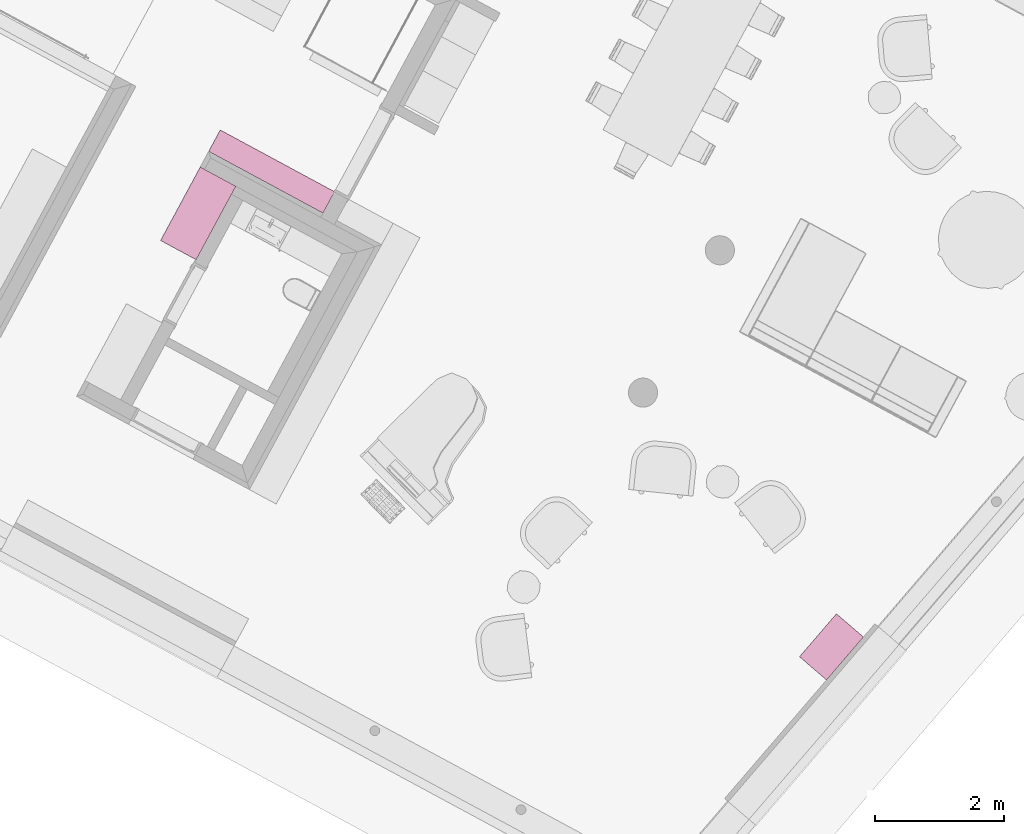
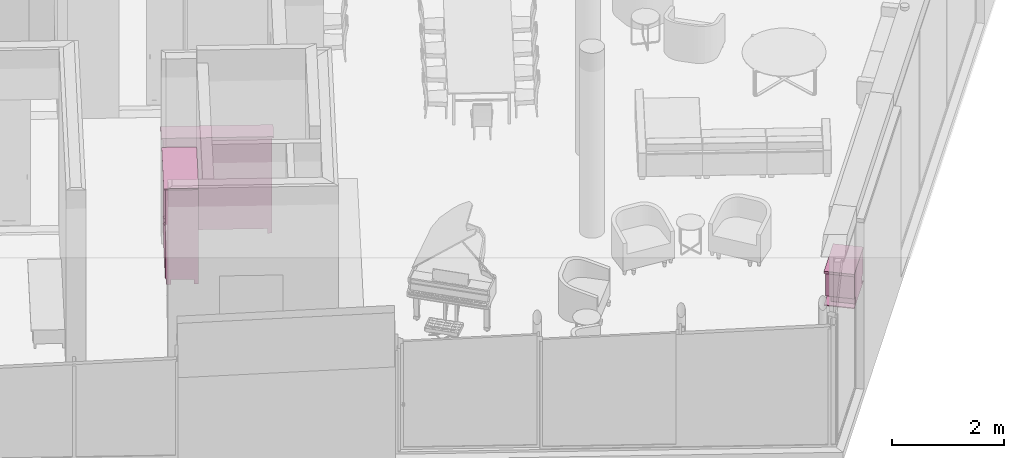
# One storey, part 30 of 36: 3 furnishings.
"""IFC2X3 building model written with IfcOpenShell, lengths in metres."""

from ifc_helpers import new_model, entity, si_unit, converted_unit, derived_unit, money_unit, direction, frame, origin_with_axes, place, context, subcontext, project, spatial, open_shell, faceted_brep, surface_model, type_object, element, save


model = new_model("IFC2X3")

# Units and contexts
model_context = context("Model", 3, precision=1e-05, world=origin_with_axes(), true_north=direction((0.0, 1.0)))
body_context = subcontext(model_context, "Body", "Model", "MODEL_VIEW")
ifc_project = project(units=[si_unit("LENGTHUNIT", "METRE"), si_unit("AREAUNIT", "SQUARE_METRE"), si_unit("VOLUMEUNIT", "CUBIC_METRE"), converted_unit("PLANEANGLEUNIT", "DEGREE", entity("IfcPlaneAngleMeasure", 0.0174532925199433), si_unit("PLANEANGLEUNIT", "RADIAN"), dimensions=[0, 0, 0, 0, 0, 0, 0]), money_unit("EUR"), converted_unit("TIMEUNIT", "Year", entity("IfcTimeMeasure", 31556926.0), si_unit("TIMEUNIT", "SECOND"), dimensions=[0, 0, 1, 0, 0, 0, 0]), si_unit("MASSUNIT", "GRAM", prefix="KILO"), si_unit("THERMODYNAMICTEMPERATUREUNIT", "DEGREE_CELSIUS"), si_unit("LUMINOUSINTENSITYUNIT", "LUMEN"), si_unit("ENERGYUNIT", "JOULE", prefix="MEGA"), derived_unit("THERMALCONDUCTANCEUNIT", [(si_unit("POWERUNIT", "WATT"), 1), (si_unit("LENGTHUNIT", "METRE"), -1), (si_unit("THERMODYNAMICTEMPERATUREUNIT", "KELVIN"), -1)]), derived_unit("SPECIFICHEATCAPACITYUNIT", [(si_unit("ENERGYUNIT", "JOULE"), 1), (si_unit("MASSUNIT", "GRAM", prefix="KILO"), -1), (si_unit("THERMODYNAMICTEMPERATUREUNIT", "KELVIN"), -1)]), derived_unit("MASSDENSITYUNIT", [(si_unit("MASSUNIT", "GRAM", prefix="KILO"), 1), (si_unit("VOLUMEUNIT", "CUBIC_METRE"), -1)])], contexts=[model_context])

# Site, building, storey
site_placement = place(None, frame((-3.949935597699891, 1.740105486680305, 0.0), z_axis=(0.0, 0.0, 1.0), x_axis=(0.8799804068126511, -0.475009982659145, 0.0)))
site = spatial("IfcSite", under=ifc_project, at=site_placement, Name="Gelände", CompositionType="ELEMENT")
building_placement = place(site_placement, origin_with_axes())
building = spatial("IfcBuilding", under=site, at=building_placement, Name="Gebäude", CompositionType="ELEMENT")
storey_placement = place(building_placement, origin_with_axes())
storey = spatial("IfcBuildingStorey", under=building, at=storey_placement, Name="Erdgeschoss", CompositionType="ELEMENT", Elevation=0.0)

# Furnishings
furniture_type_1 = type_object("IfcFurnitureType", Name="Kleiderschrank 22", AssemblyPlace="NOTDEFINED")
furnishing_1_placement = place(storey_placement, frame((15.16082818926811, 6.72805330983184, 0.0), z_axis=(0.0, 0.0, 1.0), x_axis=(0.0, -1.0, 0.0)))
element("IfcFurnishingElement", 1, at=furnishing_1_placement, inside=storey, type_object=furniture_type_1, Name="Objekt-0067", ObjectType="FURNITURE", context=body_context, shape_type="Brep", body=[
    faceted_brep([(0.05000000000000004, 0.6246501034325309, 0.12), (0.05000000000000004, 0.6046501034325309, 0.12), (0.05000000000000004, 0.6046501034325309, 2.05), (0.05000000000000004, 0.6246501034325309, 2.05), (1.24, 0.6246501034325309, 0.12), (1.24, 0.6046501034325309, 0.12), (1.24, 0.6046501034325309, 2.05), (1.24, 0.6246501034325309, 2.05)], [[[0, 1, 2, 3]], [[0, 4, 5, 1]], [[1, 5, 6, 2]], [[3, 2, 6, 7]], [[4, 0, 3, 7]], [[5, 4, 7, 6]]]),
    faceted_brep([(1.26, 0.05000000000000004, 0.1), (1.24, 0.05000000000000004, 0.1), (1.24, 0.6246501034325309, 0.1), (1.26, 0.6246501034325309, 0.1), (1.26, 0.05000000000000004, 2.07), (1.24, 0.05000000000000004, 2.07), (1.24, 0.6246501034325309, 2.07), (1.26, 0.6246501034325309, 2.07)], [[[0, 1, 2, 3]], [[1, 0, 4, 5]], [[2, 1, 5, 6]], [[3, 2, 6, 7]], [[0, 3, 7, 4]], [[5, 4, 7, 6]]]),
    faceted_brep([(0.05000000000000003, 0.05000000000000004, 0.1), (0.03000000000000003, 0.05000000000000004, 0.1), (0.03000000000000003, 0.6246501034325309, 0.1), (0.05000000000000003, 0.6246501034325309, 0.1), (0.05000000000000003, 0.05000000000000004, 2.07), (0.03000000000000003, 0.05000000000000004, 2.07), (0.03000000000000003, 0.6246501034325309, 2.07), (0.05000000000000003, 0.6246501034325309, 2.07)], [[[0, 1, 2, 3]], [[1, 0, 4, 5]], [[2, 1, 5, 6]], [[3, 2, 6, 7]], [[0, 3, 7, 4]], [[5, 4, 7, 6]]]),
    faceted_brep([(1.24, 0.05000000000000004, 0.1), (0.05000000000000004, 0.05000000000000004, 0.1), (0.05000000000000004, 0.6246501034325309, 0.1), (1.24, 0.6246501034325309, 0.1), (1.24, 0.05000000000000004, 0.12), (0.05000000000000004, 0.05000000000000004, 0.12), (0.05000000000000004, 0.6246501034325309, 0.12), (1.24, 0.6246501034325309, 0.12)], [[[0, 1, 2, 3]], [[1, 0, 4, 5]], [[2, 1, 5, 6]], [[3, 2, 6, 7]], [[0, 3, 7, 4]], [[5, 4, 7, 6]]]),
    faceted_brep([(1.24, 0.05000000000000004, 2.05), (0.05000000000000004, 0.05000000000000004, 2.05), (0.05000000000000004, 0.6246501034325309, 2.05), (1.24, 0.6246501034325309, 2.05), (1.24, 0.05000000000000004, 2.07), (0.05000000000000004, 0.05000000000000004, 2.07), (0.05000000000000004, 0.6246501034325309, 2.07), (1.24, 0.6246501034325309, 2.07)], [[[0, 1, 2, 3]], [[1, 0, 4, 5]], [[2, 1, 5, 6]], [[3, 2, 6, 7]], [[0, 3, 7, 4]], [[5, 4, 7, 6]]]),
    faceted_brep([(1.29, 0.6246501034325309, 2.07), (1.29, 0.6246501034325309, 2.1), (1.29, 0.0, 2.1), (1.29, 0.0, 2.07), (0.0, 0.6246501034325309, 2.07), (0.0, 0.6246501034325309, 2.1), (0.0, 0.0, 2.1), (0.0, 0.0, 2.07)], [[[0, 1, 2, 3]], [[4, 5, 1, 0]], [[1, 5, 6, 2]], [[3, 2, 6, 7]], [[0, 3, 7, 4]], [[7, 6, 5, 4]]]),
    faceted_brep([(0.1100000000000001, 0.5446501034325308, 0.0), (0.1100000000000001, 0.6246501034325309, 0.0), (0.1100000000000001, 0.6246501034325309, 0.1), (0.1100000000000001, 0.5446501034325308, 0.1), (0.03000000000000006, 0.5446501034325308, 0.0), (0.03000000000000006, 0.6246501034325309, 0.0), (0.03000000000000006, 0.6246501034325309, 0.1), (0.03000000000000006, 0.5446501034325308, 0.1)], [[[0, 1, 2, 3]], [[0, 4, 5, 1]], [[1, 5, 6, 2]], [[3, 2, 6, 7]], [[4, 0, 3, 7]], [[5, 4, 7, 6]]]),
    faceted_brep([(1.26, 0.5446501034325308, 0.0), (1.26, 0.6246501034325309, 0.0), (1.26, 0.6246501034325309, 0.1), (1.26, 0.5446501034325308, 0.1), (1.18, 0.5446501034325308, 0.0), (1.18, 0.6246501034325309, 0.0), (1.18, 0.6246501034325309, 0.1), (1.18, 0.5446501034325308, 0.1)], [[[0, 1, 2, 3]], [[0, 4, 5, 1]], [[1, 5, 6, 2]], [[3, 2, 6, 7]], [[4, 0, 3, 7]], [[5, 4, 7, 6]]]),
    faceted_brep([(0.1100000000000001, 0.05000000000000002, 0.0), (0.1100000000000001, 0.13, 0.0), (0.1100000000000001, 0.13, 0.1), (0.1100000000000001, 0.05000000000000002, 0.1), (0.03000000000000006, 0.05000000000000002, 0.0), (0.03000000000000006, 0.13, 0.0), (0.03000000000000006, 0.13, 0.1), (0.03000000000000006, 0.05000000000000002, 0.1)], [[[0, 1, 2, 3]], [[0, 4, 5, 1]], [[1, 5, 6, 2]], [[3, 2, 6, 7]], [[4, 0, 3, 7]], [[5, 4, 7, 6]]]),
    faceted_brep([(1.26, 0.05000000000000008, 0.0), (1.26, 0.1300000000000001, 0.0), (1.26, 0.1300000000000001, 0.1), (1.26, 0.05000000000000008, 0.1), (1.18, 0.05000000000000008, 0.0), (1.18, 0.1300000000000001, 0.0), (1.18, 0.1300000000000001, 0.1), (1.18, 0.05000000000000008, 0.1)], [[[0, 1, 2, 3]], [[0, 4, 5, 1]], [[1, 5, 6, 2]], [[3, 2, 6, 7]], [[4, 0, 3, 7]], [[5, 4, 7, 6]]]),
    faceted_brep([(0.04049999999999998, 0.05, 0.1104999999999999), (0.6445, 0.05, 0.1104999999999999), (0.6445, 0.03, 0.1104999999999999), (0.04049999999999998, 0.03, 0.1104999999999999), (0.04049999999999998, 0.05000000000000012, 2.0595), (0.6445, 0.05000000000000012, 2.0595), (0.6445, 0.03000000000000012, 2.0595), (0.04049999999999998, 0.03000000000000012, 2.0595)], [[[0, 1, 2, 3]], [[0, 4, 5, 1]], [[1, 5, 6, 2]], [[3, 2, 6, 7]], [[4, 0, 3, 7]], [[5, 4, 7, 6]]]),
    faceted_brep([(0.5819262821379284, 0.03, 0.955), (0.5819262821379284, 0.03, 0.965), (0.5939984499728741, 0.03, 0.965), (0.5939984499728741, 0.03, 0.955), (0.5708251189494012, 0.01914952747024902, 0.965), (0.5708251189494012, 0.01914952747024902, 0.955), (0.5171748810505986, 0.01914952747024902, 0.965), (0.5060737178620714, 0.03, 0.965), (0.4940015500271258, 0.03, 0.965), (0.5089716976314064, 0.01692943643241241, 0.965), (0.5259650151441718, 0.008772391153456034, 0.965), (0.5439999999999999, 0.006000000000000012, 0.965), (0.562034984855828, 0.008772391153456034, 0.965), (0.5790283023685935, 0.01692943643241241, 0.965), (0.5578878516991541, 0.01232720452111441, 0.965), (0.5439999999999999, 0.009999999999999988, 0.965), (0.5301121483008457, 0.01232720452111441, 0.965), (0.5790283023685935, 0.01692943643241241, 0.955), (0.562034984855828, 0.008772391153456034, 0.955), (0.5439999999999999, 0.006000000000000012, 0.955), (0.5259650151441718, 0.008772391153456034, 0.955), (0.5089716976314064, 0.01692943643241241, 0.955), (0.4940015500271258, 0.03, 0.955), (0.5060737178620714, 0.03, 0.955), (0.5171748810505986, 0.01914952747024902, 0.955), (0.5301121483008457, 0.01232720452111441, 0.955), (0.5439999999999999, 0.009999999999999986, 0.955), (0.5578878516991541, 0.01232720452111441, 0.955)], [[[0, 1, 2, 3]], [[4, 1, 0, 5]], [[6, 7, 8, 9, 10, 11, 12, 13, 2, 1, 4, 14, 15, 16]], [[13, 17, 3, 2]], [[5, 0, 3, 17, 18, 19, 20, 21, 22, 23, 24, 25, 26, 27]], [[14, 4, 5, 27]], [[7, 6, 24, 23]], [[7, 23, 22, 8]], [[8, 22, 21, 9]], [[9, 21, 20, 10]], [[10, 20, 19, 11]], [[11, 19, 18, 12]], [[12, 18, 17, 13]], [[15, 14, 27, 26]], [[16, 15, 26, 25]], [[6, 16, 25, 24]]]),
    faceted_brep([(0.6465000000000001, 0.05, 0.1104999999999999), (1.2505, 0.05, 0.1104999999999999), (1.2505, 0.03, 0.1104999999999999), (0.6465000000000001, 0.03, 0.1104999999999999), (0.6465000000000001, 0.05000000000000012, 2.0595), (1.2505, 0.05000000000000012, 2.0595), (1.2505, 0.03000000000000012, 2.0595), (0.6465000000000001, 0.03000000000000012, 2.0595)], [[[0, 1, 2, 3]], [[0, 4, 5, 1]], [[1, 5, 6, 2]], [[3, 2, 6, 7]], [[4, 0, 3, 7]], [[5, 4, 7, 6]]]),
    faceted_brep([(0.7839262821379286, 0.03, 0.955), (0.7839262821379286, 0.03, 0.965), (0.7959984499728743, 0.03, 0.965), (0.7959984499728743, 0.03, 0.955), (0.7728251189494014, 0.01914952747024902, 0.965), (0.7728251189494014, 0.01914952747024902, 0.955), (0.7191748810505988, 0.01914952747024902, 0.965), (0.7080737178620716, 0.03, 0.965), (0.6960015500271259, 0.03, 0.965), (0.7109716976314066, 0.01692943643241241, 0.965), (0.727965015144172, 0.008772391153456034, 0.965), (0.7460000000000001, 0.006000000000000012, 0.965), (0.7640349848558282, 0.008772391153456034, 0.965), (0.7810283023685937, 0.01692943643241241, 0.965), (0.7598878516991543, 0.01232720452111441, 0.965), (0.7460000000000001, 0.009999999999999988, 0.965), (0.7321121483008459, 0.01232720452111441, 0.965), (0.7810283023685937, 0.01692943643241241, 0.955), (0.7640349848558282, 0.008772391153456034, 0.955), (0.7460000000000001, 0.006000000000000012, 0.955), (0.727965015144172, 0.008772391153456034, 0.955), (0.7109716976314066, 0.01692943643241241, 0.955), (0.6960015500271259, 0.03, 0.955), (0.7080737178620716, 0.03, 0.955), (0.7191748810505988, 0.01914952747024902, 0.955), (0.7321121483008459, 0.01232720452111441, 0.955), (0.7460000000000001, 0.009999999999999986, 0.955), (0.7598878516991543, 0.01232720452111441, 0.955)], [[[0, 1, 2, 3]], [[4, 1, 0, 5]], [[6, 7, 8, 9, 10, 11, 12, 13, 2, 1, 4, 14, 15, 16]], [[17, 3, 2, 13]], [[5, 0, 3, 17, 18, 19, 20, 21, 22, 23, 24, 25, 26, 27]], [[14, 4, 5, 27]], [[7, 6, 24, 23]], [[7, 23, 22, 8]], [[22, 21, 9, 8]], [[21, 20, 10, 9]], [[20, 19, 11, 10]], [[19, 18, 12, 11]], [[18, 17, 13, 12]], [[15, 14, 27, 26]], [[16, 15, 26, 25]], [[6, 16, 25, 24]]]),
])
furnishing_2_placement = place(storey_placement, frame((17.16748824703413, 7.378842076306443, 0.0), z_axis=(0.0, 0.0, 1.0), x_axis=(-1.0, 0.0, 0.0)))
element("IfcFurnishingElement", 2, at=furnishing_2_placement, inside=storey, type_object=furniture_type_1, Name="Objekt-0067", ObjectType="FURNITURE", context=body_context, shape_type="Brep", body=[
    faceted_brep([(0.05000000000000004, 0.3757887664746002, 0.12), (0.05000000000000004, 0.3557887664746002, 0.12), (0.05000000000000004, 0.3557887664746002, 2.05), (0.05000000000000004, 0.3757887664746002, 2.05), (1.956660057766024, 0.3757887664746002, 0.12), (1.956660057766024, 0.3557887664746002, 0.12), (1.956660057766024, 0.3557887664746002, 2.05), (1.956660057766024, 0.3757887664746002, 2.05)], [[[0, 1, 2, 3]], [[0, 4, 5, 1]], [[1, 5, 6, 2]], [[3, 2, 6, 7]], [[4, 0, 3, 7]], [[5, 4, 7, 6]]]),
    faceted_brep([(1.976660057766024, 0.05000000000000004, 0.1), (1.956660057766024, 0.05000000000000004, 0.1), (1.956660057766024, 0.3757887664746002, 0.1), (1.976660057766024, 0.3757887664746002, 0.1), (1.976660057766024, 0.05000000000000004, 2.07), (1.956660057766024, 0.05000000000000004, 2.07), (1.956660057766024, 0.3757887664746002, 2.07), (1.976660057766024, 0.3757887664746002, 2.07)], [[[0, 1, 2, 3]], [[1, 0, 4, 5]], [[2, 1, 5, 6]], [[3, 2, 6, 7]], [[0, 3, 7, 4]], [[5, 4, 7, 6]]]),
    faceted_brep([(0.05000000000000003, 0.05000000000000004, 0.1), (0.03000000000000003, 0.05000000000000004, 0.1), (0.03000000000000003, 0.3757887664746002, 0.1), (0.05000000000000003, 0.3757887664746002, 0.1), (0.05000000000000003, 0.05000000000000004, 2.07), (0.03000000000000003, 0.05000000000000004, 2.07), (0.03000000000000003, 0.3757887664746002, 2.07), (0.05000000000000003, 0.3757887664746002, 2.07)], [[[0, 1, 2, 3]], [[1, 0, 4, 5]], [[2, 1, 5, 6]], [[3, 2, 6, 7]], [[0, 3, 7, 4]], [[5, 4, 7, 6]]]),
    faceted_brep([(1.956660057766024, 0.05000000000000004, 0.1), (0.05000000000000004, 0.05000000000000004, 0.1), (0.05000000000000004, 0.3757887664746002, 0.1), (1.956660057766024, 0.3757887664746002, 0.1), (1.956660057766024, 0.05000000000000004, 0.12), (0.05000000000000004, 0.05000000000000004, 0.12), (0.05000000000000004, 0.3757887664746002, 0.12), (1.956660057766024, 0.3757887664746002, 0.12)], [[[0, 1, 2, 3]], [[1, 0, 4, 5]], [[2, 1, 5, 6]], [[3, 2, 6, 7]], [[0, 3, 7, 4]], [[5, 4, 7, 6]]]),
    faceted_brep([(1.956660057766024, 0.05000000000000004, 2.05), (0.05000000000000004, 0.05000000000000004, 2.05), (0.05000000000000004, 0.3757887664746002, 2.05), (1.956660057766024, 0.3757887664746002, 2.05), (1.956660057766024, 0.05000000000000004, 2.07), (0.05000000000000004, 0.05000000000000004, 2.07), (0.05000000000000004, 0.3757887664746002, 2.07), (1.956660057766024, 0.3757887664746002, 2.07)], [[[0, 1, 2, 3]], [[1, 0, 4, 5]], [[2, 1, 5, 6]], [[3, 2, 6, 7]], [[0, 3, 7, 4]], [[5, 4, 7, 6]]]),
    faceted_brep([(2.006660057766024, 0.3757887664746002, 2.07), (2.006660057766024, 0.3757887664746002, 2.1), (2.006660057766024, 0.0, 2.1), (2.006660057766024, 0.0, 2.07), (0.0, 0.3757887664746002, 2.07), (0.0, 0.3757887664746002, 2.1), (0.0, 0.0, 2.1), (0.0, 0.0, 2.07)], [[[0, 1, 2, 3]], [[4, 5, 1, 0]], [[1, 5, 6, 2]], [[3, 2, 6, 7]], [[0, 3, 7, 4]], [[7, 6, 5, 4]]]),
    faceted_brep([(0.1100000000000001, 0.2957887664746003, 0.0), (0.1100000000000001, 0.3757887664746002, 0.0), (0.1100000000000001, 0.3757887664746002, 0.1), (0.1100000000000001, 0.2957887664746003, 0.1), (0.03000000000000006, 0.2957887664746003, 0.0), (0.03000000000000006, 0.3757887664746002, 0.0), (0.03000000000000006, 0.3757887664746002, 0.1), (0.03000000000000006, 0.2957887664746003, 0.1)], [[[0, 1, 2, 3]], [[0, 4, 5, 1]], [[1, 5, 6, 2]], [[3, 2, 6, 7]], [[4, 0, 3, 7]], [[5, 4, 7, 6]]]),
    faceted_brep([(1.976660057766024, 0.2957887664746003, 0.0), (1.976660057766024, 0.3757887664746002, 0.0), (1.976660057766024, 0.3757887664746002, 0.1), (1.976660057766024, 0.2957887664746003, 0.1), (1.896660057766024, 0.2957887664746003, 0.0), (1.896660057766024, 0.3757887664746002, 0.0), (1.896660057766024, 0.3757887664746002, 0.1), (1.896660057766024, 0.2957887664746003, 0.1)], [[[0, 1, 2, 3]], [[0, 4, 5, 1]], [[1, 5, 6, 2]], [[3, 2, 6, 7]], [[4, 0, 3, 7]], [[5, 4, 7, 6]]]),
    faceted_brep([(0.1100000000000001, 0.05000000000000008, 0.0), (0.1100000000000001, 0.1300000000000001, 0.0), (0.1100000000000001, 0.1300000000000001, 0.1), (0.1100000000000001, 0.05000000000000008, 0.1), (0.03000000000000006, 0.05000000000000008, 0.0), (0.03000000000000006, 0.1300000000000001, 0.0), (0.03000000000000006, 0.1300000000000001, 0.1), (0.03000000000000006, 0.05000000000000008, 0.1)], [[[0, 1, 2, 3]], [[0, 4, 5, 1]], [[1, 5, 6, 2]], [[3, 2, 6, 7]], [[4, 0, 3, 7]], [[5, 4, 7, 6]]]),
    faceted_brep([(1.976660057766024, 0.05000000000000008, 0.0), (1.976660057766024, 0.1300000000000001, 0.0), (1.976660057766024, 0.1300000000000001, 0.1), (1.976660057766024, 0.05000000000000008, 0.1), (1.896660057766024, 0.05000000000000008, 0.0), (1.896660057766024, 0.1300000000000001, 0.0), (1.896660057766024, 0.1300000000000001, 0.1), (1.896660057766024, 0.05000000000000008, 0.1)], [[[0, 1, 2, 3]], [[0, 4, 5, 1]], [[1, 5, 6, 2]], [[3, 2, 6, 7]], [[4, 0, 3, 7]], [[5, 4, 7, 6]]]),
    faceted_brep([(0.04050000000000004, 0.05, 0.1104999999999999), (1.002830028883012, 0.05, 0.1104999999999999), (1.002830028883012, 0.03, 0.1104999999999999), (0.04050000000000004, 0.03, 0.1104999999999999), (0.04050000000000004, 0.05000000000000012, 2.0595), (1.002830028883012, 0.05000000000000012, 2.0595), (1.002830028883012, 0.03000000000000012, 2.0595), (0.04050000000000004, 0.03000000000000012, 2.0595)], [[[0, 1, 2, 3]], [[0, 4, 5, 1]], [[1, 5, 6, 2]], [[3, 2, 6, 7]], [[4, 0, 3, 7]], [[5, 4, 7, 6]]]),
    faceted_brep([(0.9402563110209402, 0.03, 0.955), (0.9402563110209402, 0.03, 0.965), (0.9523284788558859, 0.03, 0.965), (0.9523284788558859, 0.03, 0.955), (0.929155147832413, 0.01914952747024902, 0.965), (0.929155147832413, 0.01914952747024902, 0.955), (0.8755049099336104, 0.01914952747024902, 0.965), (0.8644037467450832, 0.03, 0.965), (0.8523315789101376, 0.03, 0.965), (0.8673017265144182, 0.01692943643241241, 0.965), (0.8842950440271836, 0.008772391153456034, 0.965), (0.9023300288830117, 0.006000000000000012, 0.965), (0.9203650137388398, 0.008772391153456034, 0.965), (0.9373583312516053, 0.01692943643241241, 0.965), (0.9162178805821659, 0.01232720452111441, 0.965), (0.9023300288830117, 0.009999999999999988, 0.965), (0.8884421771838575, 0.01232720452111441, 0.965), (0.9373583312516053, 0.01692943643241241, 0.955), (0.9203650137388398, 0.008772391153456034, 0.955), (0.9023300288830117, 0.006000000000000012, 0.955), (0.8842950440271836, 0.008772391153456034, 0.955), (0.8673017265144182, 0.01692943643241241, 0.955), (0.8523315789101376, 0.03, 0.955), (0.8644037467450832, 0.03, 0.955), (0.8755049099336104, 0.01914952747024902, 0.955), (0.8884421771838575, 0.01232720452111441, 0.955), (0.9023300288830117, 0.009999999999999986, 0.955), (0.9162178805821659, 0.01232720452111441, 0.955)], [[[0, 1, 2, 3]], [[4, 1, 0, 5]], [[6, 7, 8, 9, 10, 11, 12, 13, 2, 1, 4, 14, 15, 16]], [[13, 17, 3, 2]], [[5, 0, 3, 17, 18, 19, 20, 21, 22, 23, 24, 25, 26, 27]], [[14, 4, 5, 27]], [[7, 6, 24, 23]], [[7, 23, 22, 8]], [[8, 22, 21, 9]], [[9, 21, 20, 10]], [[10, 20, 19, 11]], [[11, 19, 18, 12]], [[12, 18, 17, 13]], [[15, 14, 27, 26]], [[16, 15, 26, 25]], [[6, 16, 25, 24]]]),
    faceted_brep([(1.004830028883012, 0.05, 0.1104999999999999), (1.967160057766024, 0.05, 0.1104999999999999), (1.967160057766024, 0.03, 0.1104999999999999), (1.004830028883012, 0.03, 0.1104999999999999), (1.004830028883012, 0.05000000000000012, 2.0595), (1.967160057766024, 0.05000000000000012, 2.0595), (1.967160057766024, 0.03000000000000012, 2.0595), (1.004830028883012, 0.03000000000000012, 2.0595)], [[[0, 1, 2, 3]], [[0, 4, 5, 1]], [[1, 5, 6, 2]], [[3, 2, 6, 7]], [[4, 0, 3, 7]], [[5, 4, 7, 6]]]),
    faceted_brep([(1.14225631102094, 0.03, 0.955), (1.14225631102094, 0.03, 0.965), (1.154328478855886, 0.03, 0.965), (1.154328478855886, 0.03, 0.955), (1.131155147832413, 0.01914952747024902, 0.965), (1.131155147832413, 0.01914952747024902, 0.955), (1.07750490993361, 0.01914952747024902, 0.965), (1.066403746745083, 0.03, 0.965), (1.054331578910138, 0.03, 0.965), (1.069301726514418, 0.01692943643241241, 0.965), (1.086295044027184, 0.008772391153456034, 0.965), (1.104330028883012, 0.006000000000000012, 0.965), (1.12236501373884, 0.008772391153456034, 0.965), (1.139358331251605, 0.01692943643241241, 0.965), (1.118217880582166, 0.01232720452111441, 0.965), (1.104330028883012, 0.009999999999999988, 0.965), (1.090442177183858, 0.01232720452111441, 0.965), (1.139358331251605, 0.01692943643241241, 0.955), (1.12236501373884, 0.008772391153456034, 0.955), (1.104330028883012, 0.006000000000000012, 0.955), (1.086295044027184, 0.008772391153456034, 0.955), (1.069301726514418, 0.01692943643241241, 0.955), (1.054331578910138, 0.03, 0.955), (1.066403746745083, 0.03, 0.955), (1.07750490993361, 0.01914952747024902, 0.955), (1.090442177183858, 0.01232720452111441, 0.955), (1.104330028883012, 0.009999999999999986, 0.955), (1.118217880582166, 0.01232720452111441, 0.955)], [[[0, 1, 2, 3]], [[4, 1, 0, 5]], [[6, 7, 8, 9, 10, 11, 12, 13, 2, 1, 4, 14, 15, 16]], [[17, 3, 2, 13]], [[5, 0, 3, 17, 18, 19, 20, 21, 22, 23, 24, 25, 26, 27]], [[14, 4, 5, 27]], [[7, 6, 24, 23]], [[7, 23, 22, 8]], [[22, 21, 9, 8]], [[21, 20, 10, 9]], [[20, 19, 11, 10]], [[19, 18, 12, 11]], [[18, 17, 13, 12]], [[15, 14, 27, 26]], [[16, 15, 26, 25]], [[6, 16, 25, 24]]]),
])
furniture_type_2 = type_object("IfcFurnitureType", Name="Kamin freistehend 22", AssemblyPlace="NOTDEFINED")
furnishing_3_placement = place(storey_placement, frame((26.90297477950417, 4.468362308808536, 0.0), z_axis=(0.0, 0.0, 1.0), x_axis=(-0.2133784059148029, -0.9769696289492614, 0.0)))
element("IfcFurnishingElement", 3, at=furnishing_3_placement, inside=storey, type_object=furniture_type_2, Name="Objekt-0070", ObjectType="FURNITURE", context=body_context, shape_type="SurfaceModel", body=[
    faceted_brep([(0.0, 0.0, 0.0), (0.0, 0.0, 0.02), (-0.875, 0.0, 0.02), (-0.875, 0.0, 0.0), (0.0, 0.5500841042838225, 0.0), (0.0, 0.5500841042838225, 0.02), (-0.875, 0.5500841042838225, 0.02), (-0.875, 0.5500841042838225, 0.0)], [[[0, 1, 2, 3]], [[4, 5, 1, 0]], [[1, 5, 6, 2]], [[3, 2, 6, 7]], [[0, 3, 7, 4]], [[7, 6, 5, 4]]]),
    faceted_brep([(-0.1296296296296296, 0.5500841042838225, 0.02), (-0.1296296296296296, 0.5500841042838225, 0.2), (-0.1296296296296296, 0.1000152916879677, 0.2), (-0.1296296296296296, 0.1000152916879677, 0.02), (-0.7453703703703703, 0.5500841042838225, 0.02), (-0.7453703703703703, 0.5500841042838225, 0.2), (-0.7453703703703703, 0.1000152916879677, 0.2), (-0.6805555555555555, 0.1000152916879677, 0.2), (-0.6805555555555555, 0.5000764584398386, 0.2), (-0.1944444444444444, 0.5000764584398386, 0.2), (-0.1944444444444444, 0.1000152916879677, 0.2), (-0.1944444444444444, 0.1000152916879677, 0.02), (-0.1944444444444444, 0.5000764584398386, 0.02), (-0.6805555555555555, 0.5000764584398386, 0.02), (-0.6805555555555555, 0.1000152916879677, 0.02), (-0.7453703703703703, 0.1000152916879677, 0.02)], [[[0, 1, 2, 3]], [[4, 5, 1, 0]], [[1, 5, 6, 7, 8, 9, 10, 2]], [[3, 2, 10, 11]], [[0, 3, 11, 12, 13, 14, 15, 4]], [[15, 6, 5, 4]], [[14, 7, 6, 15]], [[13, 8, 7, 14]], [[12, 9, 8, 13]], [[11, 10, 9, 12]]]),
    faceted_brep([(-0.6805555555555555, 0.130019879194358, 0.02), (-0.6805555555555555, 0.130019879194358, 0.2), (-0.6805555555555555, 0.1800275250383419, 0.2), (-0.6805555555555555, 0.1800275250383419, 0.02), (-0.1944444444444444, 0.130019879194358, 0.02), (-0.1944444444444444, 0.130019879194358, 0.2), (-0.1944444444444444, 0.1800275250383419, 0.2), (-0.1944444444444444, 0.1800275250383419, 0.02)], [[[0, 1, 2, 3]], [[4, 5, 1, 0]], [[1, 5, 6, 2]], [[3, 2, 6, 7]], [[0, 3, 7, 4]], [[7, 6, 5, 4]]]),
    faceted_brep([(-0.09074074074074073, 0.08001223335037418, 0.25), (-0.09074074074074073, 0.08001223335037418, 0.7), (-0.7842592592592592, 0.08001223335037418, 0.7), (-0.7842592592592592, 0.08001223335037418, 0.25), (-0.1555555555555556, 0.08001223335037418, 0.6000000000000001), (-0.1555555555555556, 0.08001223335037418, 0.35), (-0.7194444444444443, 0.08001223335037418, 0.35), (-0.7194444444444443, 0.08001223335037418, 0.6000000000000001), (-0.09074074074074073, 0.130019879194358, 0.25), (-0.09074074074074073, 0.130019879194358, 0.7), (-0.7842592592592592, 0.130019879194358, 0.7), (-0.7842592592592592, 0.130019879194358, 0.25), (-0.1555555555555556, 0.130019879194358, 0.6000000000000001), (-0.1555555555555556, 0.130019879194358, 0.35), (-0.7194444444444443, 0.130019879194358, 0.35), (-0.7194444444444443, 0.130019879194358, 0.6000000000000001)], [[[0, 1, 2, 3], [4, 5, 6, 7]], [[0, 8, 9, 1]], [[1, 9, 10, 2]], [[2, 10, 11, 3]], [[3, 11, 8, 0]], [[4, 12, 13, 5]], [[5, 13, 14, 6]], [[6, 14, 15, 7]], [[7, 15, 12, 4]], [[8, 11, 10, 9], [12, 15, 14, 13]]]),
    faceted_brep([(-0.1555555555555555, 0.09001376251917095, 0.35), (-0.1555555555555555, 0.09001376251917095, 0.6000000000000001), (-0.7194444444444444, 0.09001376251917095, 0.6000000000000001), (-0.7194444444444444, 0.09001376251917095, 0.35), (-0.1555555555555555, 0.1100168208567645, 0.6000000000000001), (-0.1555555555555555, 0.1100168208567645, 0.35), (-0.7194444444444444, 0.1100168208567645, 0.6000000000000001), (-0.7194444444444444, 0.1100168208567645, 0.35)], [[[0, 1, 2, 3]], [[4, 1, 0, 5]], [[6, 2, 1, 4]], [[7, 3, 2, 6]], [[5, 0, 3, 7]], [[5, 7, 6, 4]]]),
    faceted_brep([(0.0, 0.5500841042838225, 0.7), (0.0, 0.5500841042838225, 0.75), (0.0, 0.0, 0.75), (0.0, 0.0, 0.7), (-0.875, 0.5500841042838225, 0.7), (-0.875, 0.5500841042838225, 0.75), (-0.875, 0.0, 0.75), (-0.875, 0.0, 0.7)], [[[0, 1, 2, 3]], [[4, 5, 1, 0]], [[1, 5, 6, 2]], [[3, 2, 6, 7]], [[0, 3, 7, 4]], [[7, 6, 5, 4]]]),
    faceted_brep([(-0.02592592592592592, 0.02000305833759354, 0.2), (-0.02592592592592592, 0.02000305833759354, 0.7), (-0.09074074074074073, 0.02000305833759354, 0.7), (-0.09074074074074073, 0.02000305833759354, 0.2), (-0.02592592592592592, 0.5500841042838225, 0.2), (-0.02592592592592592, 0.5500841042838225, 0.7), (-0.8490740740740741, 0.5500841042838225, 0.7), (-0.8490740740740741, 0.02000305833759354, 0.7), (-0.7842592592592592, 0.02000305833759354, 0.7), (-0.7842592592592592, 0.5000764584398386, 0.7), (-0.09074074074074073, 0.5000764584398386, 0.7), (-0.09074074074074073, 0.5000764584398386, 0.2), (-0.7842592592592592, 0.5000764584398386, 0.2), (-0.7842592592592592, 0.02000305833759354, 0.2), (-0.8490740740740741, 0.02000305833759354, 0.2), (-0.8490740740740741, 0.5500841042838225, 0.2)], [[[0, 1, 2, 3]], [[4, 5, 1, 0]], [[1, 5, 6, 7, 8, 9, 10, 2]], [[3, 2, 10, 11]], [[0, 3, 11, 12, 13, 14, 15, 4]], [[15, 6, 5, 4]], [[14, 7, 6, 15]], [[13, 8, 7, 14]], [[12, 9, 8, 13]], [[11, 10, 9, 12]]]),
    faceted_brep([(-0.09074074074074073, 0.03000458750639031, 0.65), (-0.09074074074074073, 0.03000458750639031, 0.7000000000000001), (-0.7842592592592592, 0.03000458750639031, 0.7000000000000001), (-0.7842592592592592, 0.03000458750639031, 0.65), (-0.09074074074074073, 0.08001223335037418, 0.65), (-0.09074074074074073, 0.08001223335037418, 0.7000000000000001), (-0.7842592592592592, 0.08001223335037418, 0.7000000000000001), (-0.7842592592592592, 0.08001223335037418, 0.65)], [[[0, 1, 2, 3]], [[4, 5, 1, 0]], [[1, 5, 6, 2]], [[3, 2, 6, 7]], [[0, 3, 7, 4]], [[7, 6, 5, 4]]]),
    faceted_brep([(-0.09074074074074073, 0.5040770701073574, 0.2), (-0.09074074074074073, 0.5040770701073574, 0.25), (-0.09074074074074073, 0.08001223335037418, 0.25), (-0.09074074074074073, 0.08001223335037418, 0.2), (-0.7842592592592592, 0.5040770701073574, 0.2), (-0.7842592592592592, 0.5040770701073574, 0.25), (-0.7842592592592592, 0.08001223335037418, 0.25), (-0.7842592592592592, 0.08001223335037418, 0.2)], [[[0, 1, 2, 3]], [[4, 5, 1, 0]], [[1, 5, 6, 2]], [[3, 2, 6, 7]], [[0, 3, 7, 4]], [[7, 6, 5, 4]]]),
    faceted_brep([(-0.09074074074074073, 0.03000458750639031, 0.2), (-0.09074074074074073, 0.03000458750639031, 0.3), (-0.7842592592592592, 0.03000458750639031, 0.3), (-0.7842592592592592, 0.03000458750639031, 0.2), (-0.09074074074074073, 0.08001223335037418, 0.2), (-0.09074074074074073, 0.08001223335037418, 0.3), (-0.7842592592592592, 0.08001223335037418, 0.3), (-0.7842592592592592, 0.08001223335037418, 0.2)], [[[0, 1, 2, 3]], [[4, 5, 1, 0]], [[1, 5, 6, 2]], [[3, 2, 6, 7]], [[0, 3, 7, 4]], [[7, 6, 5, 4]]]),
    surface_model("IfcShellBasedSurfaceModel", [(-0.09074074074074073, 0.130019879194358, 0.3), (-0.09074074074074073, 0.1300198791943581, 0.6000000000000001), (-0.7842592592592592, 0.1300198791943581, 0.6000000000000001), (-0.7842592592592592, 0.130019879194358, 0.3)], [open_shell([[[0, 1, 2, 3]]])]),
])

save(model, "model.ifc")
